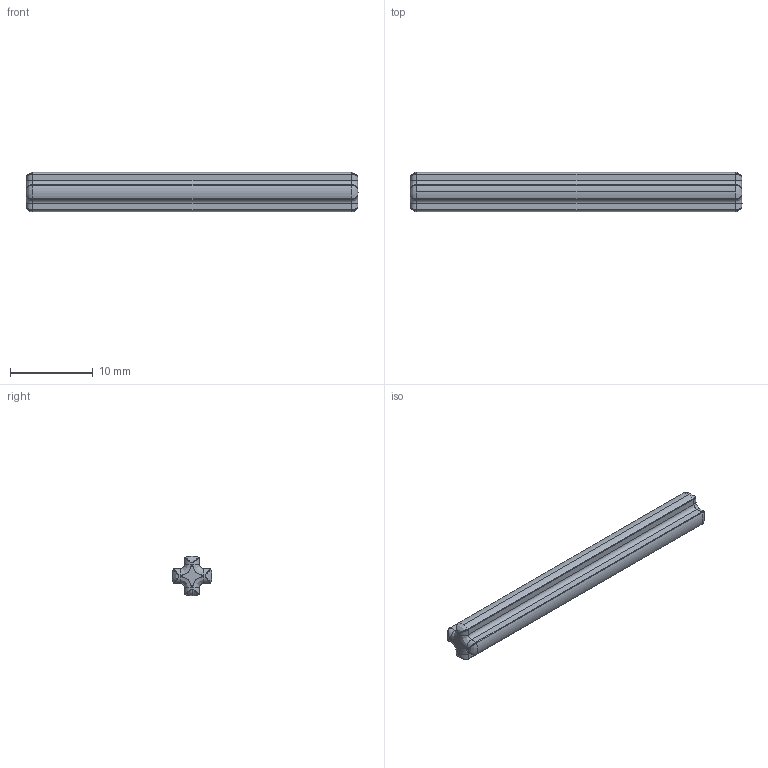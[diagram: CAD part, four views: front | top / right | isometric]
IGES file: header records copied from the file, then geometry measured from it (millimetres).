
Start section: SolidWorks IGES file using analytic representation for surfaces
Global section: file name: C:\Users\PC\Desktop\Lego Technik Gear and Axles\Axles\STEP, IGES, STL\32073 Black Technic Axle 5.IGS; native system: SolidWorks 2014; preprocessor: SolidWorks 2014; author: PC; date: 150218.233922; units: millimetre
Bounding box: 40 x 4.79 x 4.8 mm (x, y, z)
Surface area: 694.7 mm2 (no closed solid volume)
Topology: 0 solids, 0 shells, 77 faces, 490 edges, 474 vertices
Faces by surface type: bspline 44, revolution 33
